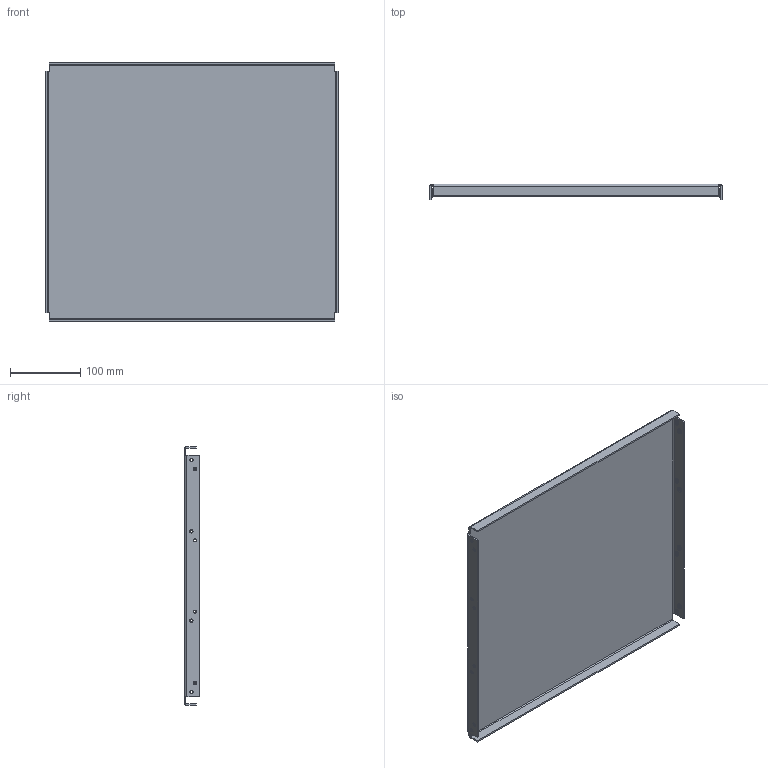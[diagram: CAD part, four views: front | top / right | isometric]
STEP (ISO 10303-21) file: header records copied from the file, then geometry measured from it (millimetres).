
FILE_DESCRIPTION (( 'STEP AP203' ), '1' );
FILE_NAME ('FBP-15D.STEP', '2013-03-07T22:58:03', ( '' ), ( '' ), 'SwSTEP 2.0', 'SolidWorks 2013', '' );
FILE_SCHEMA (( 'CONFIG_CONTROL_DESIGN' ));
Length unit declared in the file: inch
Products named in the file (1): FBP-15D
Bounding box: 415.93 x 22.1 x 368.3 mm (x, y, z)
Surface area: 359226.7 mm2 (no closed solid volume)
Topology: 0 solids, 17 shells, 170 faces, 420 edges, 280 vertices
Faces by surface type: cylinder 104, plane 66
Entity records: 5251 total; most frequent: DIRECTION 1002, CARTESIAN_POINT 871, ORIENTED_EDGE 760, EDGE_CURVE 420, AXIS2_PLACEMENT_3D 411, VERTEX_POINT 280, CIRCLE 240, EDGE_LOOP 234
